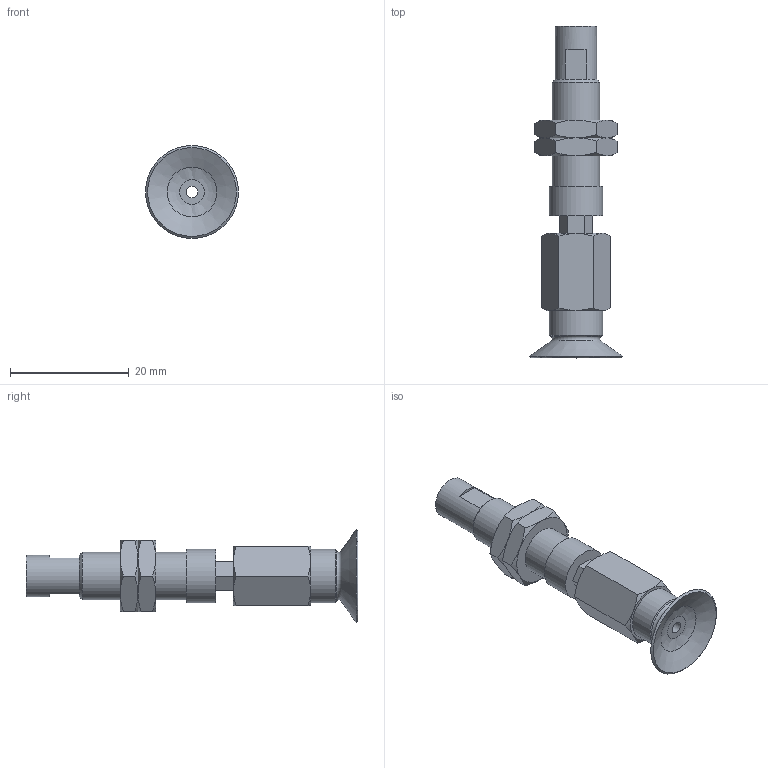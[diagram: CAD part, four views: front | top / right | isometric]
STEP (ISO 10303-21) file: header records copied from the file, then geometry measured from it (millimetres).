
FILE_DESCRIPTION(('STEP AP203'),'1');
FILE_NAME('.stp','2025-08-27T03:11:34',(' '),(' '),'Spatial InterOp 3D',' ',' ');
FILE_SCHEMA(('CONFIG_CONTROL_DESIGN'));
Length unit declared in the file: millimetre
Products named in the file (6): BNABPFTH-15A-3-※; ADAPTER; NAPATH-10A-3--M; Nut-15A-3-h; NAPFTH-15A-3-FBODY; BPFG-15A-※
Assembly tree (6 placements, depth 2):
  BNABPFTH-15A-3-※
    ADAPTER
    NAPATH-10A-3--M
    Nut-15A-3-h  x2
    NAPFTH-15A-3-FBODY
    BPFG-15A-※
Bounding box: 15.7 x 56 x 15.7 mm (x, y, z)
Volume: 3497.4 mm3; surface area: 4160.3 mm2
Topology: 6 solids, 6 shells, 123 faces, 265 edges, 161 vertices
Faces by surface type: plane 53, cone 46, cylinder 14, torus 9, bspline 1
Full cylindrical faces by diameter (mm): 2 x3, 4 x2, 4.134 x1, 6 x2, 7 x1, 7.188 x2, 8 x1, 9 x2
Entity records: 3003 total; most frequent: CARTESIAN_POINT 724, DIRECTION 412, ORIENTED_EDGE 354, AXIS2_PLACEMENT_3D 177, EDGE_CURVE 177, EDGE_LOOP 148, VERTEX_POINT 125, FACE_OUTER_BOUND 123
